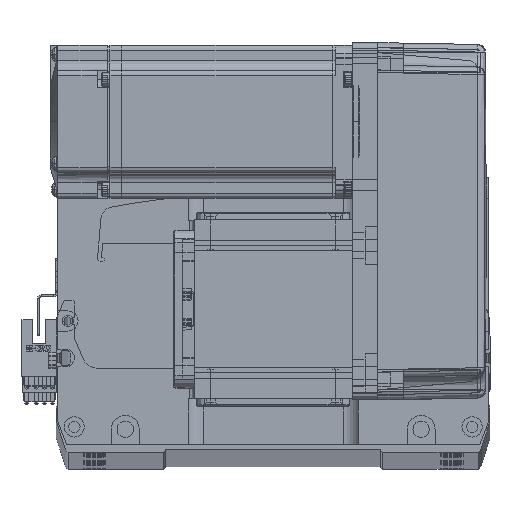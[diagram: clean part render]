
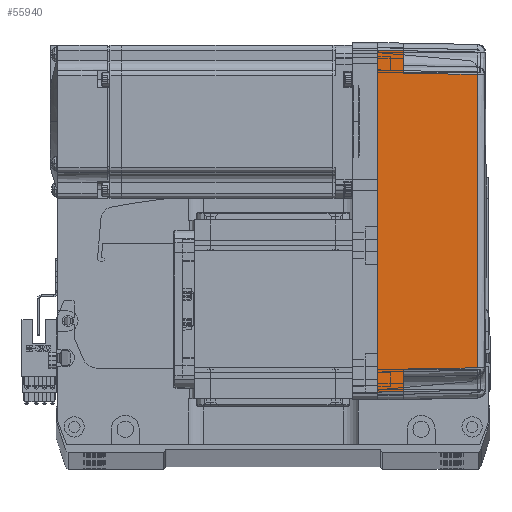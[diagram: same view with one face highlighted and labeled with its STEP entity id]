
A CAD part, top view. The second image highlights one B-rep face of the part: STEP entity #55940.
In plain terms, the highlighted planar face has unit normal (0.018, 0, 1) as drawn and (0, -1, 0.017) by its records, which use the part's own axes.
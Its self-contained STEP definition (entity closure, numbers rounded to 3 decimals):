
#998 = CARTESIAN_POINT ( 'NONE',  ( 19.165, -35.316, 39.181 ) ) ;
#2133 = ORIENTED_EDGE ( 'NONE', *, *, #17483, .T. ) ;
#2252 = LINE ( 'NONE', #9691, #7589 ) ;
#3810 = DIRECTION ( 'NONE',  ( 0., -0.017, -1. ) ) ;
#6297 = VERTEX_POINT ( 'NONE', #21000 ) ;
#6639 = ORIENTED_EDGE ( 'NONE', *, *, #30010, .T. ) ;
#6816 = DIRECTION ( 'NONE',  ( -1., 0., 0. ) ) ;
#7589 = VECTOR ( 'NONE', #66439, 1000. ) ;
#9691 = CARTESIAN_POINT ( 'NONE',  ( -57.495, -35.32, 38.985 ) ) ;
#9948 = DIRECTION ( 'NONE',  ( -1., 0., 0. ) ) ;
#10603 = CARTESIAN_POINT ( 'NONE',  ( -57.495, -35.32, 38.985 ) ) ;
#11485 = CARTESIAN_POINT ( 'NONE',  ( 70., -35.825, 10. ) ) ;
#13739 = LINE ( 'NONE', #38304, #40566 ) ;
#13768 = CARTESIAN_POINT ( 'NONE',  ( -58., -35.825, 10. ) ) ;
#14578 = DIRECTION ( 'NONE',  ( 0.017, 0.017, 1. ) ) ;
#15949 = CARTESIAN_POINT ( 'NONE',  ( 70., -36., 0. ) ) ;
#16334 = EDGE_CURVE ( 'NONE', #63556, #24985, #60228, .T. ) ;
#16540 = VECTOR ( 'NONE', #61208, 1000. ) ;
#17483 = EDGE_CURVE ( 'NONE', #24985, #6297, #54674, .T. ) ;
#21000 = CARTESIAN_POINT ( 'NONE',  ( 58., -35.825, 10. ) ) ;
#21171 = CARTESIAN_POINT ( 'NONE',  ( 70., -35.825, 10. ) ) ;
#21414 = EDGE_CURVE ( 'NONE', #63610, #69208, #2252, .T. ) ;
#21590 = EDGE_CURVE ( 'NONE', #70290, #63610, #70081, .T. ) ;
#24093 = LINE ( 'NONE', #43727, #70623 ) ;
#24985 = VERTEX_POINT ( 'NONE', #50845 ) ;
#26065 = CARTESIAN_POINT ( 'NONE',  ( 67., -36., 0. ) ) ;
#27878 = VERTEX_POINT ( 'NONE', #52489 ) ;
#30010 = EDGE_CURVE ( 'NONE', #6297, #70290, #24093, .T. ) ;
#31658 = CARTESIAN_POINT ( 'NONE',  ( 0., -36., 0. ) ) ;
#32210 = ORIENTED_EDGE ( 'NONE', *, *, #49652, .F. ) ;
#32807 = FACE_OUTER_BOUND ( 'NONE', #46828, .T. ) ;
#33129 = PLANE ( 'NONE',  #60803 ) ;
#33153 = VERTEX_POINT ( 'NONE', #43131 ) ;
#33506 = ORIENTED_EDGE ( 'NONE', *, *, #21414, .T. ) ;
#34798 = CARTESIAN_POINT ( 'NONE',  ( -57.495, -35.32, 38.985 ) ) ;
#35981 = CARTESIAN_POINT ( 'NONE',  ( 67., -36., 0. ) ) ;
#36931 = VECTOR ( 'NONE', #52781, 1000. ) ;
#37081 = ORIENTED_EDGE ( 'NONE', *, *, #64018, .T. ) ;
#38304 = CARTESIAN_POINT ( 'NONE',  ( -66.959, -35.958, 2.39 ) ) ;
#40080 = CARTESIAN_POINT ( 'NONE',  ( 57.495, -35.32, 38.985 ) ) ;
#40566 = VECTOR ( 'NONE', #14578, 1000. ) ;
#41496 = ORIENTED_EDGE ( 'NONE', *, *, #73760, .F. ) ;
#43131 = CARTESIAN_POINT ( 'NONE',  ( -66.826, -35.825, 10. ) ) ;
#43727 = CARTESIAN_POINT ( 'NONE',  ( 58., -35.825, 10. ) ) ;
#44493 = ORIENTED_EDGE ( 'NONE', *, *, #16334, .T. ) ;
#46828 = EDGE_LOOP ( 'NONE', ( #44493, #2133, #6639, #47319, #33506, #37081, #41496, #32210 ) ) ;
#47319 = ORIENTED_EDGE ( 'NONE', *, *, #21590, .T. ) ;
#49652 = EDGE_CURVE ( 'NONE', #63556, #27878, #62155, .T. ) ;
#49667 = CARTESIAN_POINT ( 'NONE',  ( 57.495, -35.32, 38.985 ) ) ;
#50018 = VECTOR ( 'NONE', #9948, 1000. ) ;
#50845 = CARTESIAN_POINT ( 'NONE',  ( 66.826, -35.825, 10. ) ) ;
#52489 = CARTESIAN_POINT ( 'NONE',  ( -67., -36., 0. ) ) ;
#52781 = DIRECTION ( 'NONE',  ( -0.017, 0.017, 1. ) ) ;
#54229 = DIRECTION ( 'NONE',  ( -0.017, 0.017, 1. ) ) ;
#54674 = LINE ( 'NONE', #11485, #66336 ) ;
#55940 = ADVANCED_FACE ( 'NONE', ( #32807 ), #33129, .T. ) ;
#57392 = CARTESIAN_POINT ( 'NONE',  ( -19.165, -35.316, 39.181 ) ) ;
#60228 = LINE ( 'NONE', #35981, #36931 ) ;
#60678 = DIRECTION ( 'NONE',  ( 0., -1., 0.017 ) ) ;
#60803 = AXIS2_PLACEMENT_3D ( 'NONE', #15949, #60678, #3810 ) ;
#61208 = DIRECTION ( 'NONE',  ( -1., 0., 0. ) ) ;
#62155 = LINE ( 'NONE', #31658, #16540 ) ;
#63556 = VERTEX_POINT ( 'NONE', #26065 ) ;
#63610 = VERTEX_POINT ( 'NONE', #10603 ) ;
#64018 = EDGE_CURVE ( 'NONE', #69208, #33153, #70660, .T. ) ;
#66336 = VECTOR ( 'NONE', #6816, 1000. ) ;
#66439 = DIRECTION ( 'NONE',  ( -0.017, -0.017, -1. ) ) ;
#69208 = VERTEX_POINT ( 'NONE', #13768 ) ;
#70081 = B_SPLINE_CURVE_WITH_KNOTS ( 'NONE', 3,
 ( #40080, #998, #57392, #34798 ),
 .UNSPECIFIED., .F., .F.,
 ( 4, 4 ),
 ( 0., 1. ),
 .UNSPECIFIED. ) ;
#70290 = VERTEX_POINT ( 'NONE', #49667 ) ;
#70623 = VECTOR ( 'NONE', #54229, 1000. ) ;
#70660 = LINE ( 'NONE', #21171, #50018 ) ;
#73760 = EDGE_CURVE ( 'NONE', #27878, #33153, #13739, .T. ) ;
